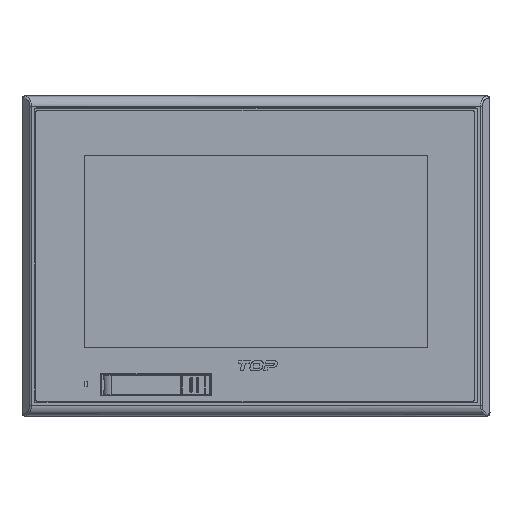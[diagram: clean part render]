
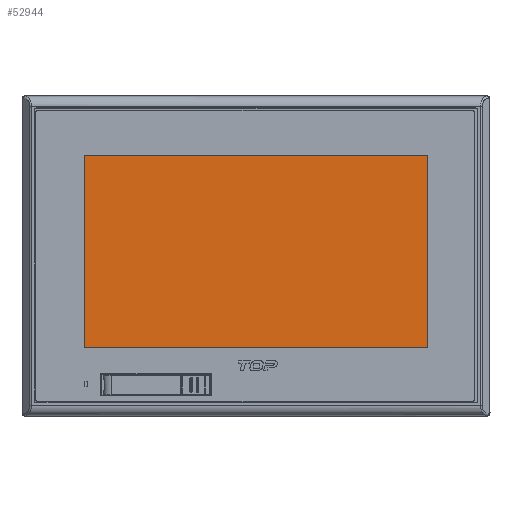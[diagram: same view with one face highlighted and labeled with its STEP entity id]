
A CAD part, top view. The second image highlights one B-rep face of the part: STEP entity #52944.
In plain terms, the highlighted planar face has unit normal (0, 0, 1).
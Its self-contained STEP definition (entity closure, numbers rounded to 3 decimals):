
#9607=DIRECTION('',(0.,1.,0.));
#9608=VECTOR('',#9607,87.);
#9609=CARTESIAN_POINT('',(-77.75,-40.,-0.27));
#9610=LINE('',#9609,#9608);
#9611=DIRECTION('',(1.,0.,0.));
#9612=VECTOR('',#9611,155.5);
#9613=CARTESIAN_POINT('',(-77.75,47.,-0.27));
#9614=LINE('',#9613,#9612);
#9615=DIRECTION('',(0.,-1.,0.));
#9616=VECTOR('',#9615,87.);
#9617=CARTESIAN_POINT('',(77.75,47.,-0.27));
#9618=LINE('',#9617,#9616);
#9619=DIRECTION('',(-1.,0.,0.));
#9620=VECTOR('',#9619,155.5);
#9621=CARTESIAN_POINT('',(77.75,-40.,-0.27));
#9622=LINE('',#9621,#9620);
#35593=CARTESIAN_POINT('',(-77.75,47.,-0.27));
#35594=VERTEX_POINT('',#35593);
#35595=CARTESIAN_POINT('',(-77.75,-40.,-0.27));
#35596=VERTEX_POINT('',#35595);
#35597=CARTESIAN_POINT('',(77.75,47.,-0.27));
#35598=VERTEX_POINT('',#35597);
#35599=CARTESIAN_POINT('',(77.75,-40.,-0.27));
#35600=VERTEX_POINT('',#35599);
#52933=CARTESIAN_POINT('',(0.,0.,-0.27));
#52934=DIRECTION('',(0.,0.,1.));
#52935=DIRECTION('',(1.,0.,0.));
#52936=AXIS2_PLACEMENT_3D('',#52933,#52934,#52935);
#52937=PLANE('',#52936);
#52938=ORIENTED_EDGE('',*,*,#52885,.T.);
#52939=ORIENTED_EDGE('',*,*,#52900,.T.);
#52940=ORIENTED_EDGE('',*,*,#52914,.T.);
#52941=ORIENTED_EDGE('',*,*,#52927,.T.);
#52942=EDGE_LOOP('',(#52938,#52939,#52940,#52941));
#52943=FACE_OUTER_BOUND('',#52942,.F.);
#52944=ADVANCED_FACE('',(#52943),#52937,.T.);
#52885=EDGE_CURVE('',#35596,#35594,#9610,.T.);
#52900=EDGE_CURVE('',#35594,#35598,#9614,.T.);
#52914=EDGE_CURVE('',#35598,#35600,#9618,.T.);
#52927=EDGE_CURVE('',#35600,#35596,#9622,.T.);
